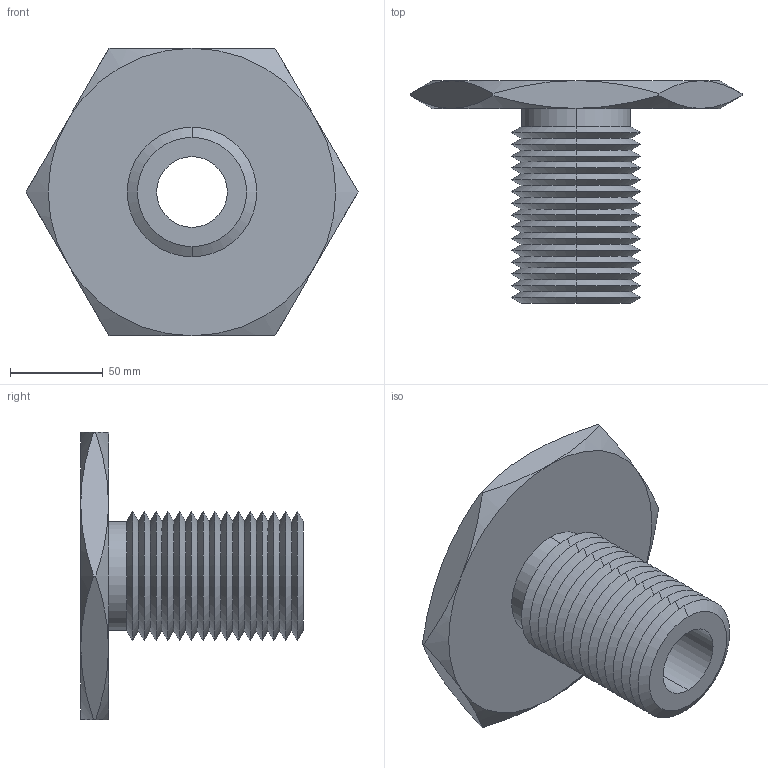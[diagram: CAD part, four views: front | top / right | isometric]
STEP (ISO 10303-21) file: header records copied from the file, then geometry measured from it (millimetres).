
FILE_DESCRIPTION (( 'STEP AP203' ), '1' );
FILE_NAME ('63302.W5275_1,50 UNC-6.step', '2013-12-08T11:55:47', ( 'User' ), ( '' ), 'SwSTEP 2.0', 'SolidWorks 2009', '' );
FILE_SCHEMA (( 'CONFIG_CONTROL_DESIGN' ));
Length unit declared in the file: millimetre
Products named in the file (1): 63302.W5275_1,50 UNC-6
Bounding box: 178.98 x 120 x 155 mm (x, y, z)
Volume: 503109.6 mm3; surface area: 99840.8 mm2
Topology: 1 solids, 1 shells, 87 faces, 178 edges, 94 vertices
Faces by surface type: cone 74, plane 9, cylinder 4
Entity records: 2479 total; most frequent: CARTESIAN_POINT 584, DIRECTION 412, ORIENTED_EDGE 356, EDGE_CURVE 178, AXIS2_PLACEMENT_3D 170, VERTEX_POINT 94, EDGE_LOOP 90, ADVANCED_FACE 87
